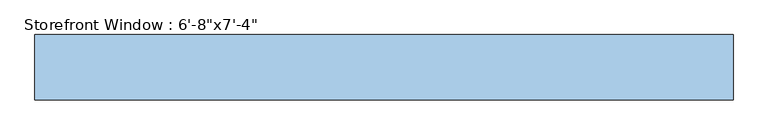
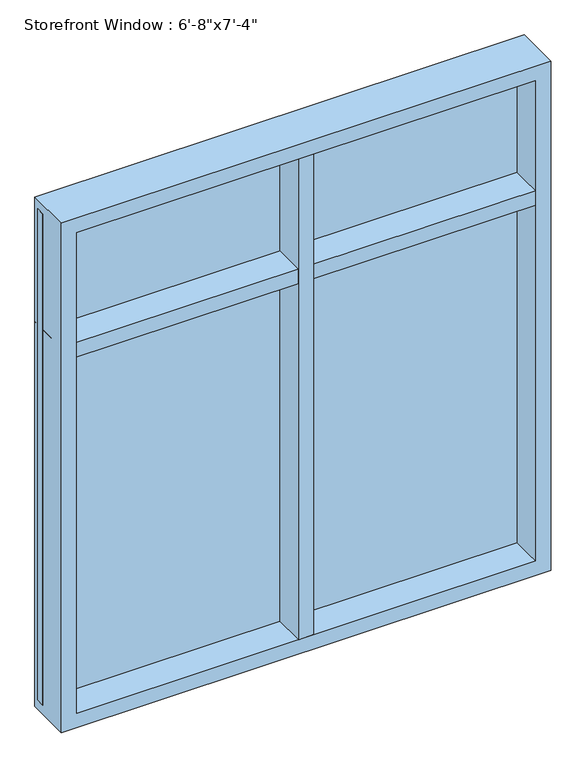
"""IFC4 building model written with IfcOpenShell, lengths in millimetres: window geometry."""

import ifcopenshell
import ifcopenshell.guid

model = None  # the IFC model being written
_history = None  # IfcOwnerHistory: only IFC2X3 demands one
_inside = {}  # id of a spatial element -> (the spatial element, [elements in it])
_under = {}  # id of a project, library or spatial element -> (it, [spatial elements below it])
_declared = {}  # id of a project -> (the project, [libraries it declares])
_typed = {}  # id of a type object -> (the type object, [elements of that type])
_made_of = {}  # id of a material, layer set ... -> (it, [elements and type objects made of it])


def new_model(schema):
    """Start an empty IFC model of exactly this schema.

    Asked for "IFC4X3", IfcOpenShell would pick the latest addendum, in which some entities
    have other attributes; the version numbers below select the first issue.
    IFC2X3 requires an IfcOwnerHistory on every rooted entity: one is made here for all.
    """
    global model, _history
    if schema == "IFC4X3":
        model = ifcopenshell.file(schema_version=(4, 3, 0, 0))
    else:
        model = ifcopenshell.file(schema=schema)
    _inside.clear()
    _under.clear()
    _declared.clear()
    _typed.clear()
    _made_of.clear()
    _history = None
    if model.schema == "IFC2X3":
        org = make("IfcOrganization", Name="unknown")
        user = make(
            "IfcPersonAndOrganization",
            ThePerson=make("IfcPerson", FamilyName="unknown"),
            TheOrganization=org,
        )
        app = make(
            "IfcApplication",
            ApplicationDeveloper=org,
            Version="unknown",
            ApplicationFullName="unknown",
            ApplicationIdentifier="unknown",
        )
        _history = make(
            "IfcOwnerHistory",
            OwningUser=user,
            OwningApplication=app,
            ChangeAction="ADDED",
            CreationDate=0,
        )
    return model


def make(cls, **values):
    """One entity of the class cls with the attributes given. An attribute that is None is left unset."""
    return model.create_entity(
        cls, **{name: value for name, value in values.items() if value is not None}
    )


def rooted(cls, **values):
    """An entity with a GlobalId (a new one), such as an element, a storey or a relation."""
    return make(cls, GlobalId=ifcopenshell.guid.new(), OwnerHistory=_history, **values)


def si_unit(unit_type, name, prefix=None):
    """IfcSIUnit, for example si_unit("LENGTHUNIT", "METRE", prefix="MILLI")."""
    return make("IfcSIUnit", UnitType=unit_type, Prefix=prefix, Name=name)


def assignment(units):
    """IfcUnitAssignment: the units of a project."""
    return None if units is None else make("IfcUnitAssignment", Units=units)


def point(xyz):
    """IfcCartesianPoint."""
    return None if xyz is None else make("IfcCartesianPoint", Coordinates=xyz)


def direction(xyz):
    """IfcDirection."""
    return None if xyz is None else make("IfcDirection", DirectionRatios=xyz)


def frame(location, z_axis=None, x_axis=None):
    """IfcAxis2Placement3D, a coordinate frame: its origin and axes. An axis left out is left unset."""
    return make(
        "IfcAxis2Placement3D",
        Location=point(location),
        Axis=direction(z_axis),
        RefDirection=direction(x_axis),
    )


def origin():
    """The frame at (0, 0, 0) with its axes left unset."""
    return frame((0.0, 0.0, 0.0))


def place(relative_to, where):
    """IfcLocalPlacement: puts the frame where relative to a parent placement (None: the world)."""
    return make(
        "IfcLocalPlacement", PlacementRelTo=relative_to, RelativePlacement=where
    )


def context(
    kind, dimensions, precision=None, world=None, true_north=None, identifier=None
):
    """IfcGeometricRepresentationContext, for example the 3D "Model" context."""
    return make(
        "IfcGeometricRepresentationContext",
        ContextIdentifier=identifier,
        ContextType=kind,
        CoordinateSpaceDimension=dimensions,
        Precision=precision,
        WorldCoordinateSystem=world,
        TrueNorth=true_north,
    )


def project(units=None, contexts=None):
    """IfcProject with its units and contexts."""
    return rooted(
        "IfcProject",
        Name="project",
        RepresentationContexts=contexts,
        UnitsInContext=assignment(units),
    )


def spatial(cls, under=None, at=None, **own):
    """A site, building, storey or space (cls), placed at a placement, below another one or the project."""
    s = rooted(cls, ObjectPlacement=at, **own)
    if under is not None:
        _under.setdefault(under.id(), (under, []))[1].append(s)
    return s


def polyline(points):
    """IfcPolyline through the points."""
    return make("IfcPolyline", Points=[point(p) for p in points])


def outline(outer, holes=None, kind="AREA"):
    """IfcArbitraryClosedProfileDef: a profile drawn as a closed curve; with holes, ...WithVoids."""
    if holes is None:
        return make("IfcArbitraryClosedProfileDef", ProfileType=kind, OuterCurve=outer)
    return make(
        "IfcArbitraryProfileDefWithVoids",
        ProfileType=kind,
        OuterCurve=outer,
        InnerCurves=holes,
    )


def extrude(swept, where, along, depth):
    """IfcExtrudedAreaSolid: the profile swept, set in the frame where, extruded along a direction by depth."""
    return make(
        "IfcExtrudedAreaSolid",
        SweptArea=swept,
        Position=where,
        ExtrudedDirection=direction(along),
        Depth=depth,
    )


def faces_of(points, faces, orient=None, outer=None):
    """IfcFace entities. A face is a list of loops; a loop is a list of indices into points, from 0.

    orient and outer hold one flag for each loop. By default every Orientation is true, the
    first loop of a face is its IfcFaceOuterBound and the others are IfcFaceBound.
    """
    made = []
    for i, loops in enumerate(faces):
        bounds = []
        for j, loop in enumerate(loops):
            is_outer = j == 0 if outer is None else outer[i][j]
            bounds.append(
                make(
                    "IfcFaceOuterBound" if is_outer else "IfcFaceBound",
                    Bound=make("IfcPolyLoop", Polygon=[points[k] for k in loop]),
                    Orientation=True if orient is None else orient[i][j],
                )
            )
        made.append(make("IfcFace", Bounds=bounds))
    return made


def faceted_brep(points, faces, orient=None, outer=None, voids=None):
    """IfcFacetedBrep: a solid bounded by flat faces; with voids (closed shells), ...WithVoids."""
    shared = [point(p) for p in points]
    hull = make("IfcClosedShell", CfsFaces=faces_of(shared, faces, orient, outer))
    if voids is None:
        return make("IfcFacetedBrep", Outer=hull)
    return make(
        "IfcFacetedBrepWithVoids",
        Outer=hull,
        Voids=[
            make(cls, CfsFaces=faces_of(shared, fs, o, b)) for cls, fs, o, b in voids
        ],
    )


def shape(context_of_items, identifier, shape_type, items):
    """IfcShapeRepresentation: the items that make up one representation, for example the "Body"."""
    return make(
        "IfcShapeRepresentation",
        ContextOfItems=context_of_items,
        RepresentationIdentifier=identifier,
        RepresentationType=shape_type,
        Items=items,
    )


def source(mapping_origin, context_of_items, identifier, shape_type, items):
    """IfcRepresentationMap: a shape defined once, which mapped items show again and again."""
    return make(
        "IfcRepresentationMap",
        MappingOrigin=mapping_origin,
        MappedRepresentation=shape(context_of_items, identifier, shape_type, items),
    )


def transform(
    local_origin,
    x_axis=None,
    y_axis=None,
    z_axis=None,
    scale=None,
    scale2=None,
    scale3=None,
    uniform=True,
):
    """IfcCartesianTransformationOperator3D, or its non-uniform kind. x_axis, y_axis, z_axis: its Axis1, 2, 3."""
    if uniform:
        return make(
            "IfcCartesianTransformationOperator3D",
            Axis1=direction(x_axis),
            Axis2=direction(y_axis),
            LocalOrigin=point(local_origin),
            Scale=scale,
            Axis3=direction(z_axis),
        )
    return make(
        "IfcCartesianTransformationOperator3DnonUniform",
        Axis1=direction(x_axis),
        Axis2=direction(y_axis),
        LocalOrigin=point(local_origin),
        Scale=scale,
        Axis3=direction(z_axis),
        Scale2=scale2,
        Scale3=scale3,
    )


def mapped(mapping_source, mapping_target):
    """IfcMappedItem: shows the shape of a source again, moved by a transform."""
    return make(
        "IfcMappedItem", MappingSource=mapping_source, MappingTarget=mapping_target
    )


def made_of(thing, what):
    """Note that an element or type object is made of a material, layer set ...; save() writes the relation."""
    if what is not None:
        _made_of.setdefault(what.id(), (what, []))[1].append(thing)
    return thing


def element(
    cls,
    number,
    at=None,
    inside=None,
    cuts=None,
    type_object=None,
    material=None,
    context=None,
    identifier="Body",
    shape_type=None,
    held_by="IfcProductDefinitionShape",
    body=None,
    shapes=None,
    **own,
):
    """One element of the class cls, such as IfcWall. Its Tag is "e" and its number.

    at: its placement. inside: the storey or other place that contains it. cuts: it is an
    opening in that element (IfcRelVoidsElement). A single representation is given by context,
    identifier, shape_type and body (its items); several are given by shapes. held_by: the class
    of the entity that holds the representations. save() writes the other relations.
    """
    e = rooted(cls, Tag="e%d" % number, ObjectPlacement=at, **own)
    if body is not None:
        shapes = [shape(context, identifier, shape_type, body)]
    if shapes is not None:
        e.Representation = make(held_by, Representations=shapes)
    if inside is not None:
        _inside.setdefault(inside.id(), (inside, []))[1].append(e)
    if cuts is not None:
        rooted(
            "IfcRelVoidsElement", RelatingBuildingElement=cuts, RelatedOpeningElement=e
        )
    if type_object is not None:
        _typed.setdefault(type_object.id(), (type_object, []))[1].append(e)
    return made_of(e, material)


def aggregate(whole, parts):
    """IfcRelAggregates: a whole, such as a stair, and the parts it consists of."""
    return rooted("IfcRelAggregates", RelatingObject=whole, RelatedObjects=parts)


def save(model, path):
    """Write the relations noted so far, then the file.

    IfcRelAggregates (storeys below a building ...), IfcRelContainedInSpatialStructure (elements
    in a storey), IfcRelDefinesByType, IfcRelAssociatesMaterial and IfcRelDeclares: one each for
    every whole, place, type object, material and project.
    """
    for whole, parts in _under.values():
        aggregate(whole, parts)
    for where, things in _inside.values():
        rooted(
            "IfcRelContainedInSpatialStructure",
            RelatedElements=things,
            RelatingStructure=where,
        )
    for kind, things in _typed.values():
        rooted("IfcRelDefinesByType", RelatedObjects=things, RelatingType=kind)
    for what, things in _made_of.values():
        rooted("IfcRelAssociatesMaterial", RelatedObjects=things, RelatingMaterial=what)
    for by, libraries in _declared.values():
        rooted("IfcRelDeclares", RelatingContext=by, RelatedDefinitions=libraries)
    model.write(path)


def window_5003604b(model_context):
    return source(origin(), model_context, "Body", "SolidModel", [
        extrude(outline(polyline([(-467.228262, 69.85), (-443.415762, 69.85), (-443.415762, 107.95), (-467.228262, 107.95), (-467.228262, 127.0), (-403.728262, 127.0), (-403.728262, 107.95), (-427.540762, 107.95), (-427.540762, 69.85), (-403.728262, 69.85), (-403.728262, -63.5), (-467.228262, -63.5), (-467.228262, 69.85)])), frame((0.0, 0.0, 876.3), z_axis=(0.0, 0.0, 1.0), x_axis=(1.0, 0.0, 0.0)), (0.0, 0.0, 1.0), 2108.2),
        extrude(outline(polyline([(-1451.478262, 69.85), (-1451.478262, 107.95), (580.521738, 107.95), (580.521738, 69.85), (-1451.478262, 69.85)])), frame((0.0, 0.0, 852.4875), z_axis=(0.0, 0.0, 1.0), x_axis=(1.0, 0.0, 0.0)), (0.0, 0.0, 1.0), 2155.825),
        faceted_brep([(-1451.478262, -63.5, 3048.0), (-1451.478262, 127.0, 3048.0), (-1451.478262, 127.0, 812.8), (-1451.478262, -63.5, 812.8), (580.521738, 127.0, 3048.0), (580.521738, 127.0, 812.8), (-1387.978262, 127.0, 876.3), (517.021738, 127.0, 876.3), (517.021738, 127.0, 2984.5), (-1387.978262, 127.0, 2984.5), (580.521738, -63.5, 812.8), (580.521738, -63.5, 3048.0), (-1387.978262, -63.5, 2984.5), (517.021738, -63.5, 2984.5), (517.021738, -63.5, 876.3), (-1387.978262, -63.5, 876.3), (-1387.978262, 69.85, 2984.5), (-1387.978262, 69.85, 876.3), (517.021738, 69.85, 876.3), (-1411.790762, 69.85, 3008.3125), (540.834238, 69.85, 3008.3125), (540.834238, 69.85, 852.4875), (-1411.790762, 69.85, 852.4875), (517.021738, 69.85, 2984.5), (-1411.790762, 107.95, 3008.3125), (-1411.790762, 107.95, 852.4875), (540.834238, 107.95, 852.4875), (540.834238, 107.95, 3008.3125), (-1387.978262, 107.95, 2984.5), (517.021738, 107.95, 2984.5), (517.021738, 107.95, 876.3), (-1387.978262, 107.95, 876.3)], [[[0, 1, 2, 3]], [[1, 4, 5, 2], [6, 7, 8, 9]], [[3, 2, 5, 10]], [[3, 10, 11, 0], [12, 13, 14, 15]], [[16, 12, 15, 17]], [[17, 15, 14, 18]], [[19, 20, 21, 22], [17, 18, 23, 16]], [[24, 19, 22, 25]], [[25, 22, 21, 26]], [[25, 26, 27, 24], [28, 29, 30, 31]], [[9, 28, 31, 6]], [[6, 31, 30, 7]], [[10, 5, 4, 11]], [[18, 14, 13, 23]], [[26, 21, 20, 27]], [[7, 30, 29, 8]], [[11, 4, 1, 0]], [[23, 13, 12, 16]], [[27, 20, 19, 24]], [[8, 29, 28, 9]]]),
        extrude(outline(polyline([(127.0, 2438.4), (107.95, 2438.4), (107.95, 2462.2125), (69.85, 2462.2125), (69.85, 2438.4), (-63.5, 2438.4), (-63.5, 2501.9), (69.85, 2501.9), (69.85, 2478.0875), (107.95, 2478.0875), (107.95, 2501.9), (127.0, 2501.9), (127.0, 2438.4)])), frame((-1451.478262, 0.0, 0.0), z_axis=(1.0, 0.0, 0.0), x_axis=(0.0, 1.0, 0.0)), (0.0, 0.0, 1.0), 2032.0),
    ])


if __name__ == "__main__":
    model = new_model("IFC4")
    model_context = context("Model", 3, world=origin())
    ifc_project = project(units=[si_unit("LENGTHUNIT", "METRE", prefix="MILLI")], contexts=[model_context])
    site = spatial("IfcSite", under=ifc_project)
    building = spatial("IfcBuilding", under=site)
    placement = place(None, origin())
    window_shape = window_5003604b(model_context)
    element("IfcWindow", 1, ObjectType="Storefront Window : 6'-8\"x7'-4\"", at=placement, inside=building, context=model_context, shape_type="MappedRepresentation", body=[
        mapped(window_shape, transform((0.0, 0.0, 0.0), x_axis=(1.0, 0.0, 0.0), y_axis=(0.0, 1.0, 0.0), z_axis=(0.0, 0.0, 1.0))),
    ])
    save(model, "model.ifc")
